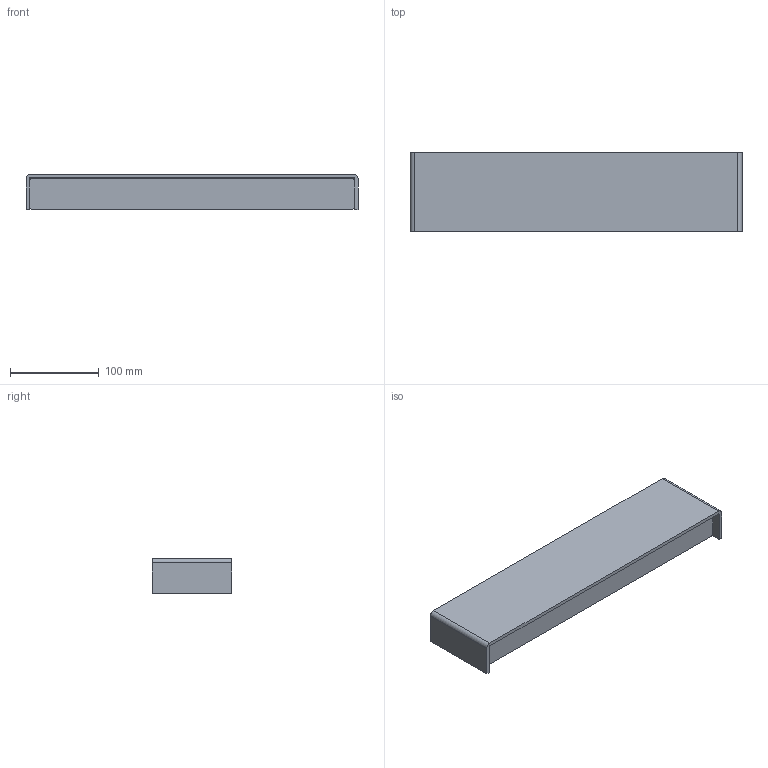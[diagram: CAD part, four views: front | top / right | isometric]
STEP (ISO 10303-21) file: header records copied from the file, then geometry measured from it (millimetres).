
FILE_DESCRIPTION(/* description */ (''),/* implementation_level */ '2;1');
FILE_NAME(/* name */ 'C:\Users\FrancoSartori\Documents\FARO\01_En Proceso\000_NASH\03_Publicación\62820.stp',/* time_stamp */ '2021-07-06T09:04:23+02:00',/* author */ ('FrancoSartori'),/* organization */ (''),/* preprocessor_version */ 'ST-DEVELOPER v18.1',/* originating_system */ 'AutoCAD Mechanical',/* authorisation */ '');
FILE_SCHEMA (('AUTOMOTIVE_DESIGN { 1 0 10303 214 3 1 1 }'));
Length unit declared in the file: millimetre
Products named in the file (2): Product; 62820_ 62822_ - Lamp-465136-Export
Assembly tree (1 placements, depth 2):
  Product
    62820_ 62822_ - Lamp-465136-Export
Bounding box: 375 x 90 x 40 mm (x, y, z)
Volume: 341208.2 mm3; surface area: 223733.6 mm2
Topology: 4 solids, 4 shells, 74 faces, 204 edges, 136 vertices
Faces by surface type: plane 50, cylinder 24
Entity records: 2438 total; most frequent: CARTESIAN_POINT 417, ORIENTED_EDGE 408, DIRECTION 406, EDGE_CURVE 204, LINE 156, VECTOR 156, VERTEX_POINT 136, AXIS2_PLACEMENT_3D 125
